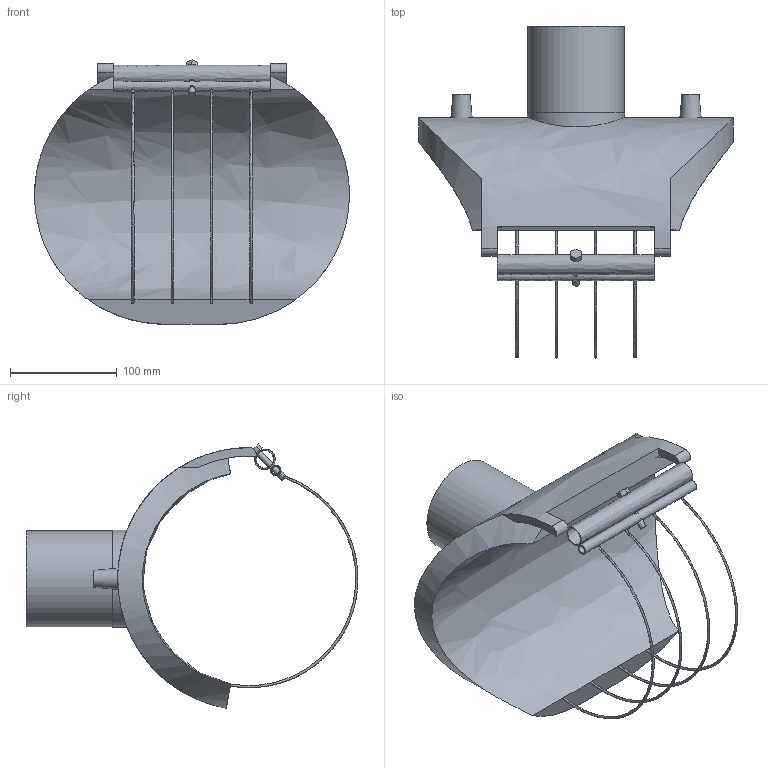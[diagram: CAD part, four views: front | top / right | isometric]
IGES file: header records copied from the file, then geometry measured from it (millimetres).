
Global section: file name: 4958X4200090T; native system: Autodesk Inventor 2021; preprocessor: unknown; author: KIM; date: 20250507.121524; units: millimetre
Bounding box: 295 x 310.99 x 247.76 mm (x, y, z)
Volume: 1962968.4 mm3; surface area: 264457.9 mm2
Topology: 1 solids, 1 shells, 61 faces, 179 edges, 122 vertices
Faces by surface type: bspline 61
